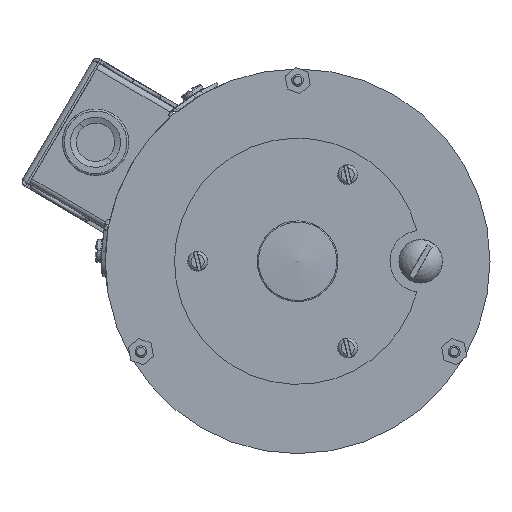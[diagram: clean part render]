
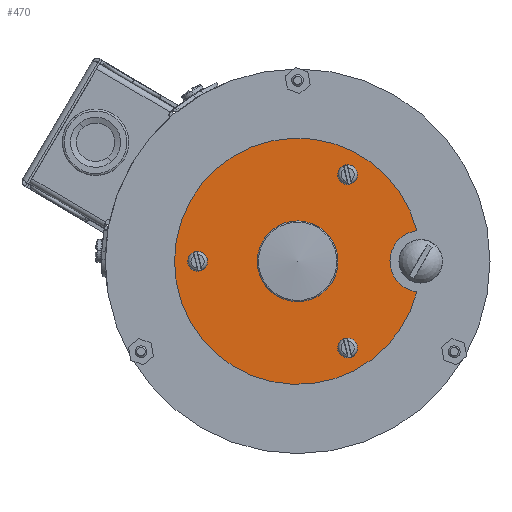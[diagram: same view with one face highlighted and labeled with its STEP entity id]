
A CAD part, front view. The second image highlights one B-rep face of the part: STEP entity #470.
In plain terms, the highlighted planar face has unit normal (0, -1, 0).
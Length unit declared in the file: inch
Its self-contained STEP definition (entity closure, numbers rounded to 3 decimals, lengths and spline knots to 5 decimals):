
#111 = ORIENTED_EDGE ( 'NONE', *, *, #22010, .F. ) ;
#118 = DIRECTION ( 'NONE',  ( -0.233, 0., 0.973 ) ) ;
#350 = AXIS2_PLACEMENT_3D ( 'NONE', #26704, #22574, #26969 ) ;
#396 = DIRECTION ( 'NONE',  ( 0., -1., 0. ) ) ;
#470 = ADVANCED_FACE ( 'NONE', ( #3526, #7492, #15888, #16960, #25322 ), #2285, .F. ) ;
#648 = CIRCLE ( 'NONE', #2847, 0.161 ) ;
#693 = EDGE_LOOP ( 'NONE', ( #25117, #111 ) ) ;
#748 = DIRECTION ( 'NONE',  ( -0.866, 0., 0.5 ) ) ;
#778 = CIRCLE ( 'NONE', #15235, 2. ) ;
#1114 = EDGE_CURVE ( 'NONE', #23269, #24027, #16124, .T. ) ;
#2242 = VERTEX_POINT ( 'NONE', #21785 ) ;
#2285 = PLANE ( 'NONE',  #7367 ) ;
#2729 = AXIS2_PLACEMENT_3D ( 'NONE', #5003, #23536, #748 ) ;
#2847 = AXIS2_PLACEMENT_3D ( 'NONE', #20857, #6428, #14823 ) ;
#3092 = CIRCLE ( 'NONE', #13619, 2. ) ;
#3112 = CARTESIAN_POINT ( 'NONE',  ( 1.56699, -0.71875, 0.25 ) ) ;
#3265 = VERTEX_POINT ( 'NONE', #20980 ) ;
#3526 = FACE_BOUND ( 'NONE', #693, .T. ) ;
#3774 = CARTESIAN_POINT ( 'NONE',  ( 0., -0.71875, 0. ) ) ;
#3931 = DIRECTION ( 'NONE',  ( 0., -1., 0. ) ) ;
#4188 = CARTESIAN_POINT ( 'NONE',  ( 0., -0.71875, 0. ) ) ;
#4906 = EDGE_CURVE ( 'NONE', #18597, #18041, #10860, .T. ) ;
#4927 = CARTESIAN_POINT ( 'NONE',  ( -1.625, -0.71875, 0. ) ) ;
#5003 = CARTESIAN_POINT ( 'NONE',  ( 2., -0.71875, 0. ) ) ;
#5103 = DIRECTION ( 'NONE',  ( 0., -1., 0. ) ) ;
#5357 = VERTEX_POINT ( 'NONE', #22997 ) ;
#5608 = CARTESIAN_POINT ( 'NONE',  ( 0.8125, -0.71875, -1.40729 ) ) ;
#5791 = CARTESIAN_POINT ( 'NONE',  ( 1.9375, -0.71875, -0.49608 ) ) ;
#5951 = DIRECTION ( 'NONE',  ( 0., -1., 0. ) ) ;
#6238 = DIRECTION ( 'NONE',  ( -0.866, 0., 0.5 ) ) ;
#6377 = CARTESIAN_POINT ( 'NONE',  ( 0., -0.71875, 0. ) ) ;
#6428 = DIRECTION ( 'NONE',  ( 0., -1., 0. ) ) ;
#6630 = CARTESIAN_POINT ( 'NONE',  ( -1.58755, -0.71875, -0.15658 ) ) ;
#6649 = ORIENTED_EDGE ( 'NONE', *, *, #9071, .F. ) ;
#6689 = CARTESIAN_POINT ( 'NONE',  ( -1.66245, -0.71875, 0.15658 ) ) ;
#6820 = AXIS2_PLACEMENT_3D ( 'NONE', #3774, #5951, #10232 ) ;
#6860 = VERTEX_POINT ( 'NONE', #15356 ) ;
#7291 = DIRECTION ( 'NONE',  ( 0., -1., 0. ) ) ;
#7315 = VERTEX_POINT ( 'NONE', #5791 ) ;
#7367 = AXIS2_PLACEMENT_3D ( 'NONE', #16552, #13000, #12868 ) ;
#7485 = CIRCLE ( 'NONE', #24145, 0.161 ) ;
#7490 = AXIS2_PLACEMENT_3D ( 'NONE', #4927, #396, #118 ) ;
#7492 = FACE_BOUND ( 'NONE', #25381, .T. ) ;
#8045 = ORIENTED_EDGE ( 'NONE', *, *, #11190, .F. ) ;
#8143 = ORIENTED_EDGE ( 'NONE', *, *, #21309, .F. ) ;
#8180 = AXIS2_PLACEMENT_3D ( 'NONE', #21202, #16940, #25303 ) ;
#8786 = EDGE_CURVE ( 'NONE', #23269, #3265, #3092, .T. ) ;
#9071 = EDGE_CURVE ( 'NONE', #6860, #23674, #7485, .T. ) ;
#9083 = DIRECTION ( 'NONE',  ( -0.233, 0., 0.973 ) ) ;
#9513 = ORIENTED_EDGE ( 'NONE', *, *, #26574, .F. ) ;
#10232 = DIRECTION ( 'NONE',  ( -0.784, 0., -0.621 ) ) ;
#10282 = VERTEX_POINT ( 'NONE', #25306 ) ;
#10860 = CIRCLE ( 'NONE', #21369, 0.161 ) ;
#11190 = EDGE_CURVE ( 'NONE', #18041, #18597, #24598, .T. ) ;
#11641 = ORIENTED_EDGE ( 'NONE', *, *, #8786, .T. ) ;
#12351 = DIRECTION ( 'NONE',  ( -0.233, 0., 0.973 ) ) ;
#12868 = DIRECTION ( 'NONE',  ( 1., 0., 0. ) ) ;
#13000 = DIRECTION ( 'NONE',  ( 0., 1., 0. ) ) ;
#13226 = EDGE_CURVE ( 'NONE', #24027, #7315, #14547, .T. ) ;
#13619 = AXIS2_PLACEMENT_3D ( 'NONE', #4188, #3931, #22865 ) ;
#14393 = DIRECTION ( 'NONE',  ( 0., -1., 0. ) ) ;
#14547 = CIRCLE ( 'NONE', #2729, 0.5 ) ;
#14823 = DIRECTION ( 'NONE',  ( -0.233, 0., 0.973 ) ) ;
#15235 = AXIS2_PLACEMENT_3D ( 'NONE', #6377, #25060, #6238 ) ;
#15245 = ORIENTED_EDGE ( 'NONE', *, *, #4906, .F. ) ;
#15320 = AXIS2_PLACEMENT_3D ( 'NONE', #5608, #14393, #12351 ) ;
#15356 = CARTESIAN_POINT ( 'NONE',  ( 0.77505, -0.71875, -1.25071 ) ) ;
#15665 = ORIENTED_EDGE ( 'NONE', *, *, #1114, .F. ) ;
#15888 = FACE_BOUND ( 'NONE', #19789, .T. ) ;
#16083 = CARTESIAN_POINT ( 'NONE',  ( 2., -0.71875, 0. ) ) ;
#16124 = CIRCLE ( 'NONE', #23130, 0.5 ) ;
#16496 = ORIENTED_EDGE ( 'NONE', *, *, #22723, .F. ) ;
#16552 = CARTESIAN_POINT ( 'NONE',  ( -1., -0.71875, -1.73205 ) ) ;
#16625 = CIRCLE ( 'NONE', #15320, 0.161 ) ;
#16940 = DIRECTION ( 'NONE',  ( 0., -1., 0. ) ) ;
#16960 = FACE_BOUND ( 'NONE', #26845, .T. ) ;
#17453 = CIRCLE ( 'NONE', #350, 0.63281 ) ;
#18041 = VERTEX_POINT ( 'NONE', #6689 ) ;
#18597 = VERTEX_POINT ( 'NONE', #6630 ) ;
#19197 = EDGE_CURVE ( 'NONE', #3265, #7315, #778, .T. ) ;
#19789 = EDGE_LOOP ( 'NONE', ( #16496, #6649 ) ) ;
#20127 = CARTESIAN_POINT ( 'NONE',  ( 0.8125, -0.71875, -1.40729 ) ) ;
#20800 = VERTEX_POINT ( 'NONE', #23000 ) ;
#20857 = CARTESIAN_POINT ( 'NONE',  ( 0.8125, -0.71875, 1.40729 ) ) ;
#20980 = CARTESIAN_POINT ( 'NONE',  ( -2., -0.71875, 0. ) ) ;
#21202 = CARTESIAN_POINT ( 'NONE',  ( 0.8125, -0.71875, 1.40729 ) ) ;
#21309 = EDGE_CURVE ( 'NONE', #20800, #2242, #21782, .T. ) ;
#21369 = AXIS2_PLACEMENT_3D ( 'NONE', #23911, #5103, #9083 ) ;
#21782 = CIRCLE ( 'NONE', #8180, 0.161 ) ;
#21785 = CARTESIAN_POINT ( 'NONE',  ( 0.84995, -0.71875, 1.25071 ) ) ;
#21901 = DIRECTION ( 'NONE',  ( 0., -1., 0. ) ) ;
#22010 = EDGE_CURVE ( 'NONE', #10282, #5357, #17453, .T. ) ;
#22409 = CARTESIAN_POINT ( 'NONE',  ( 1.9375, -0.71875, 0.49608 ) ) ;
#22471 = EDGE_LOOP ( 'NONE', ( #11641, #26086, #25368, #15665 ) ) ;
#22574 = DIRECTION ( 'NONE',  ( 0., -1., 0. ) ) ;
#22723 = EDGE_CURVE ( 'NONE', #23674, #6860, #16625, .T. ) ;
#22865 = DIRECTION ( 'NONE',  ( -0.866, 0., 0.5 ) ) ;
#22997 = CARTESIAN_POINT ( 'NONE',  ( -0.49582, -0.71875, -0.39321 ) ) ;
#23000 = CARTESIAN_POINT ( 'NONE',  ( 0.77505, -0.71875, 1.56387 ) ) ;
#23130 = AXIS2_PLACEMENT_3D ( 'NONE', #16083, #7291, #24436 ) ;
#23269 = VERTEX_POINT ( 'NONE', #22409 ) ;
#23536 = DIRECTION ( 'NONE',  ( 0., -1., 0. ) ) ;
#23544 = CIRCLE ( 'NONE', #6820, 0.63281 ) ;
#23674 = VERTEX_POINT ( 'NONE', #25963 ) ;
#23911 = CARTESIAN_POINT ( 'NONE',  ( -1.625, -0.71875, 0. ) ) ;
#24027 = VERTEX_POINT ( 'NONE', #3112 ) ;
#24145 = AXIS2_PLACEMENT_3D ( 'NONE', #20127, #21901, #24224 ) ;
#24175 = EDGE_CURVE ( 'NONE', #5357, #10282, #23544, .T. ) ;
#24224 = DIRECTION ( 'NONE',  ( -0.233, 0., 0.973 ) ) ;
#24436 = DIRECTION ( 'NONE',  ( -0.866, 0., 0.5 ) ) ;
#24598 = CIRCLE ( 'NONE', #7490, 0.161 ) ;
#25060 = DIRECTION ( 'NONE',  ( 0., -1., 0. ) ) ;
#25117 = ORIENTED_EDGE ( 'NONE', *, *, #24175, .F. ) ;
#25303 = DIRECTION ( 'NONE',  ( -0.233, 0., 0.973 ) ) ;
#25306 = CARTESIAN_POINT ( 'NONE',  ( 0.49582, -0.71875, 0.39321 ) ) ;
#25322 = FACE_OUTER_BOUND ( 'NONE', #22471, .T. ) ;
#25368 = ORIENTED_EDGE ( 'NONE', *, *, #13226, .F. ) ;
#25381 = EDGE_LOOP ( 'NONE', ( #15245, #8045 ) ) ;
#25963 = CARTESIAN_POINT ( 'NONE',  ( 0.84995, -0.71875, -1.56387 ) ) ;
#26086 = ORIENTED_EDGE ( 'NONE', *, *, #19197, .T. ) ;
#26574 = EDGE_CURVE ( 'NONE', #2242, #20800, #648, .T. ) ;
#26704 = CARTESIAN_POINT ( 'NONE',  ( 0., -0.71875, 0. ) ) ;
#26845 = EDGE_LOOP ( 'NONE', ( #9513, #8143 ) ) ;
#26969 = DIRECTION ( 'NONE',  ( -0.784, 0., -0.621 ) ) ;
